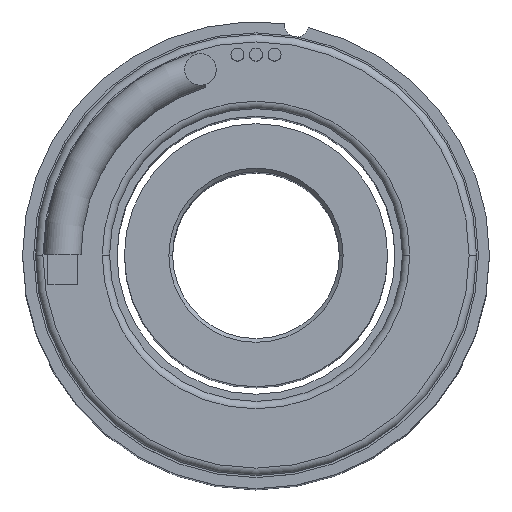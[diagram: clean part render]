
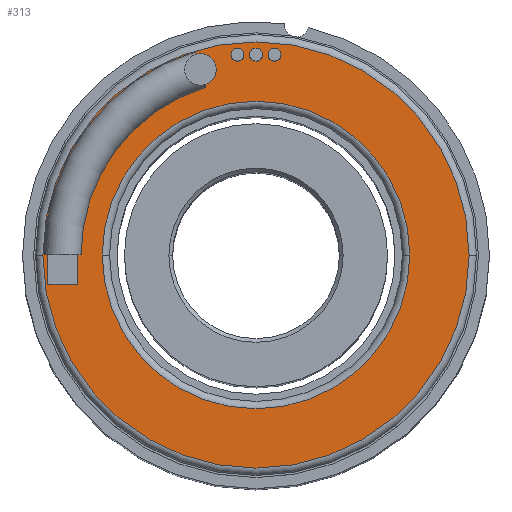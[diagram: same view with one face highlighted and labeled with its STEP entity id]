
A CAD part, top view. The second image highlights one B-rep face of the part: STEP entity #313.
In plain terms, the highlighted planar face has unit normal (0, 0, 1).
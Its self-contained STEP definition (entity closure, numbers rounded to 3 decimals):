
#87 = CARTESIAN_POINT ( 'NONE',  ( 10.539, 0., 34.29 ) ) ;
#252 = CIRCLE ( 'NONE', #1514, 14.605 ) ;
#255 = ORIENTED_EDGE ( 'NONE', *, *, #2817, .T. ) ;
#267 = EDGE_CURVE ( 'NONE', #2138, #2548, #2731, .T. ) ;
#313 = ADVANCED_FACE ( 'NONE', ( #1327, #2345 ), #1646, .T. ) ;
#364 = CARTESIAN_POINT ( 'NONE',  ( 0., 0., 34.29 ) ) ;
#370 = CARTESIAN_POINT ( 'NONE',  ( 0., 0., 34.29 ) ) ;
#392 = DIRECTION ( 'NONE',  ( 0., 0., 1. ) ) ;
#403 = ORIENTED_EDGE ( 'NONE', *, *, #499, .T. ) ;
#422 = CARTESIAN_POINT ( 'NONE',  ( -10.539, 0., 34.29 ) ) ;
#435 = AXIS2_PLACEMENT_3D ( 'NONE', #2935, #2246, #2698 ) ;
#499 = EDGE_CURVE ( 'NONE', #2548, #2138, #252, .T. ) ;
#543 = CARTESIAN_POINT ( 'NONE',  ( 0., 0., 34.29 ) ) ;
#605 = DIRECTION ( 'NONE',  ( 1., 0., 0. ) ) ;
#697 = EDGE_LOOP ( 'NONE', ( #2537, #255 ) ) ;
#758 = DIRECTION ( 'NONE',  ( 1., 0., 0. ) ) ;
#812 = CARTESIAN_POINT ( 'NONE',  ( 14.605, 0., 34.29 ) ) ;
#1187 = DIRECTION ( 'NONE',  ( 0., 0., 1. ) ) ;
#1244 = VERTEX_POINT ( 'NONE', #87 ) ;
#1327 = FACE_BOUND ( 'NONE', #697, .T. ) ;
#1514 = AXIS2_PLACEMENT_3D ( 'NONE', #370, #392, #605 ) ;
#1646 = PLANE ( 'NONE',  #2101 ) ;
#1751 = DIRECTION ( 'NONE',  ( 0., 0., -1. ) ) ;
#1769 = AXIS2_PLACEMENT_3D ( 'NONE', #543, #1891, #758 ) ;
#1826 = VERTEX_POINT ( 'NONE', #422 ) ;
#1863 = CARTESIAN_POINT ( 'NONE',  ( 0., 0., 34.29 ) ) ;
#1891 = DIRECTION ( 'NONE',  ( 0., 0., 1. ) ) ;
#1940 = CARTESIAN_POINT ( 'NONE',  ( -14.605, 0., 34.29 ) ) ;
#1965 = EDGE_LOOP ( 'NONE', ( #403, #2465 ) ) ;
#2101 = AXIS2_PLACEMENT_3D ( 'NONE', #1863, #1187, #2391 ) ;
#2138 = VERTEX_POINT ( 'NONE', #1940 ) ;
#2204 = EDGE_CURVE ( 'NONE', #1244, #1826, #2401, .T. ) ;
#2246 = DIRECTION ( 'NONE',  ( 0., 0., -1. ) ) ;
#2330 = AXIS2_PLACEMENT_3D ( 'NONE', #364, #1751, #2406 ) ;
#2345 = FACE_OUTER_BOUND ( 'NONE', #1965, .T. ) ;
#2391 = DIRECTION ( 'NONE',  ( 1., 0., 0. ) ) ;
#2401 = CIRCLE ( 'NONE', #2330, 10.539 ) ;
#2406 = DIRECTION ( 'NONE',  ( 1., 0., 0. ) ) ;
#2465 = ORIENTED_EDGE ( 'NONE', *, *, #267, .T. ) ;
#2537 = ORIENTED_EDGE ( 'NONE', *, *, #2204, .T. ) ;
#2548 = VERTEX_POINT ( 'NONE', #812 ) ;
#2698 = DIRECTION ( 'NONE',  ( 1., 0., 0. ) ) ;
#2731 = CIRCLE ( 'NONE', #1769, 14.605 ) ;
#2817 = EDGE_CURVE ( 'NONE', #1826, #1244, #2913, .T. ) ;
#2913 = CIRCLE ( 'NONE', #435, 10.539 ) ;
#2935 = CARTESIAN_POINT ( 'NONE',  ( 0., 0., 34.29 ) ) ;
